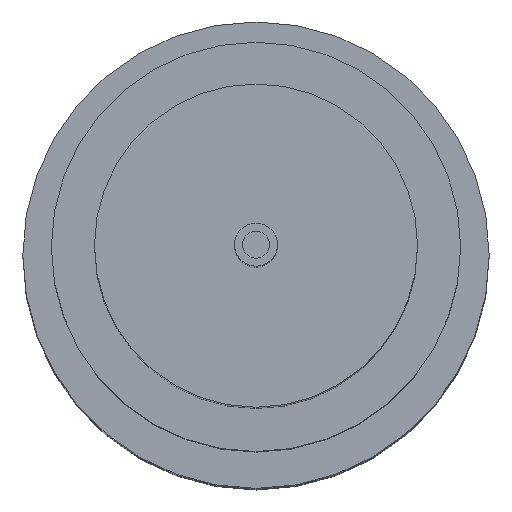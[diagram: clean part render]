
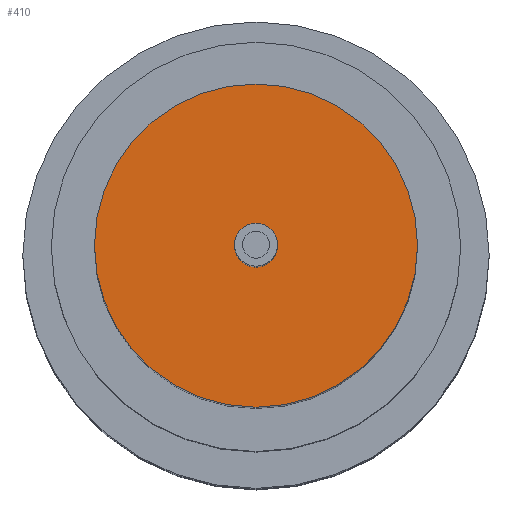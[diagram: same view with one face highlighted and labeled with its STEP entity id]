
A CAD part, top view. The second image highlights one B-rep face of the part: STEP entity #410.
In plain terms, the highlighted planar face has unit normal (0, 0, 1) as drawn and (-1, 0, 0) by its records, which use the part's own axes.
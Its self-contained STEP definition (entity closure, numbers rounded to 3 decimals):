
#88 = CARTESIAN_POINT ( 'NONE',  ( 5., 0., -0.2 ) ) ;
#177 = DIRECTION ( 'NONE',  ( 0., 0., -1. ) ) ;
#178 = DIRECTION ( 'NONE',  ( 1., 0., 0. ) ) ;
#179 = CARTESIAN_POINT ( 'NONE',  ( 5., 0., 0. ) ) ;
#180 = AXIS2_PLACEMENT_3D ( 'NONE', #179, #178, #177 ) ;
#181 = CIRCLE ( 'NONE', #180, 0.2 ) ;
#293 = CARTESIAN_POINT ( 'NONE',  ( 5., 0., 0.2 ) ) ;
#410 = ADVANCED_FACE ( 'NONE', ( #435, #434 ), #433, .F. ) ;
#412 = EDGE_LOOP ( 'NONE', ( #487, #454 ) ) ;
#428 = DIRECTION ( 'NONE',  ( 0., 0., -1. ) ) ;
#429 = DIRECTION ( 'NONE',  ( 1., 0., 0. ) ) ;
#430 = CARTESIAN_POINT ( 'NONE',  ( 5., 0., 0. ) ) ;
#431 = AXIS2_PLACEMENT_3D ( 'NONE', #430, #429, #428 ) ;
#433 = PLANE ( 'NONE',  #431 ) ;
#434 = FACE_BOUND ( 'NONE', #488, .T. ) ;
#435 = FACE_OUTER_BOUND ( 'NONE', #412, .T. ) ;
#438 = VERTEX_POINT ( 'NONE', #293 ) ;
#454 = ORIENTED_EDGE ( 'NONE', *, *, #794, .F. ) ;
#463 = ORIENTED_EDGE ( 'NONE', *, *, #815, .T. ) ;
#464 = ORIENTED_EDGE ( 'NONE', *, *, #988, .T. ) ;
#487 = ORIENTED_EDGE ( 'NONE', *, *, #810, .F. ) ;
#488 = EDGE_LOOP ( 'NONE', ( #463, #464 ) ) ;
#580 = DIRECTION ( 'NONE',  ( 0., 0., -1. ) ) ;
#581 = DIRECTION ( 'NONE',  ( 1., 0., 0. ) ) ;
#582 = AXIS2_PLACEMENT_3D ( 'NONE', #587, #581, #580 ) ;
#583 = CIRCLE ( 'NONE', #582, 0.2 ) ;
#587 = CARTESIAN_POINT ( 'NONE',  ( 5., 0., 0. ) ) ;
#588 = CARTESIAN_POINT ( 'NONE',  ( 5., 0., -1.5 ) ) ;
#593 = CARTESIAN_POINT ( 'NONE',  ( 5., 0., 1.5 ) ) ;
#594 = DIRECTION ( 'NONE',  ( 0., 0., -1. ) ) ;
#595 = DIRECTION ( 'NONE',  ( 1., 0., 0. ) ) ;
#596 = CARTESIAN_POINT ( 'NONE',  ( 5., 0., 0. ) ) ;
#605 = DIRECTION ( 'NONE',  ( 0., 0., -1. ) ) ;
#606 = DIRECTION ( 'NONE',  ( 1., 0., 0. ) ) ;
#607 = CARTESIAN_POINT ( 'NONE',  ( 5., 0., 0. ) ) ;
#608 = AXIS2_PLACEMENT_3D ( 'NONE', #607, #606, #605 ) ;
#609 = CIRCLE ( 'NONE', #608, 1.5 ) ;
#616 = AXIS2_PLACEMENT_3D ( 'NONE', #596, #595, #594 ) ;
#617 = CIRCLE ( 'NONE', #616, 1.5 ) ;
#792 = VERTEX_POINT ( 'NONE', #588 ) ;
#794 = EDGE_CURVE ( 'NONE', #792, #795, #617, .T. ) ;
#795 = VERTEX_POINT ( 'NONE', #593 ) ;
#810 = EDGE_CURVE ( 'NONE', #795, #792, #609, .T. ) ;
#815 = EDGE_CURVE ( 'NONE', #438, #956, #583, .T. ) ;
#956 = VERTEX_POINT ( 'NONE', #88 ) ;
#988 = EDGE_CURVE ( 'NONE', #956, #438, #181, .T. ) ;
